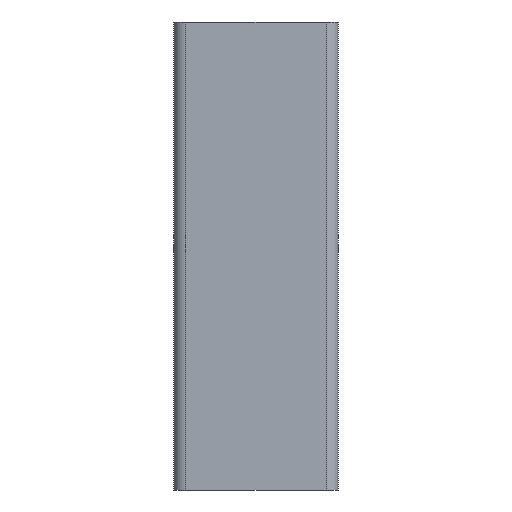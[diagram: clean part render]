
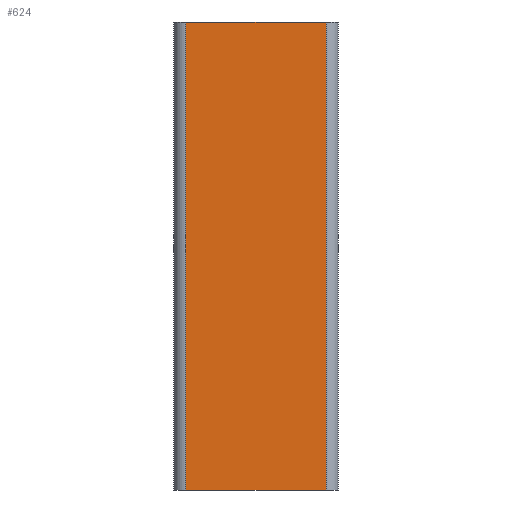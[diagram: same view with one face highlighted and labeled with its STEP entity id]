
A CAD part, front view. The second image highlights one B-rep face of the part: STEP entity #624.
In plain terms, the highlighted planar face has unit normal (0, -1, 0).
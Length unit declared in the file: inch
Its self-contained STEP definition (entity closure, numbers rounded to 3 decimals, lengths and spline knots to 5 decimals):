
#4 = AXIS2_PLACEMENT_3D ( 'NONE', #409, #438, #441 ) ;
#15 = VERTEX_POINT ( 'NONE', #32 ) ;
#22 = CARTESIAN_POINT ( 'NONE',  ( 1.34725, -1.58125, -4.5 ) ) ;
#26 = CARTESIAN_POINT ( 'NONE',  ( -1.34725, -1.58125, 4.5 ) ) ;
#32 = CARTESIAN_POINT ( 'NONE',  ( 1.34725, -1.58125, 4.5 ) ) ;
#45 = CARTESIAN_POINT ( 'NONE',  ( -1.34725, -1.58125, -4.5 ) ) ;
#47 = VERTEX_POINT ( 'NONE', #22 ) ;
#48 = VERTEX_POINT ( 'NONE', #45 ) ;
#80 = VERTEX_POINT ( 'NONE', #26 ) ;
#103 = EDGE_CURVE ( 'NONE', #80, #15, #489, .T. ) ;
#106 = EDGE_CURVE ( 'NONE', #80, #48, #494, .T. ) ;
#107 = EDGE_CURVE ( 'NONE', #15, #47, #497, .T. ) ;
#114 = EDGE_CURVE ( 'NONE', #48, #47, #506, .T. ) ;
#134 = DIRECTION ( 'NONE',  ( 1., 0., 0. ) ) ;
#142 = CARTESIAN_POINT ( 'NONE',  ( -1.34725, -1.58125, -4.5 ) ) ;
#158 = DIRECTION ( 'NONE',  ( 0., 0., -1. ) ) ;
#163 = DIRECTION ( 'NONE',  ( 0., 0., -1. ) ) ;
#164 = CARTESIAN_POINT ( 'NONE',  ( -1.34725, -1.58125, 4.5 ) ) ;
#165 = CARTESIAN_POINT ( 'NONE',  ( -1.34725, -1.58125, 4.5 ) ) ;
#173 = CARTESIAN_POINT ( 'NONE',  ( 1.34725, -1.58125, 4.5 ) ) ;
#174 = DIRECTION ( 'NONE',  ( 1., 0., 0. ) ) ;
#241 = ORIENTED_EDGE ( 'NONE', *, *, #103, .F. ) ;
#255 = ORIENTED_EDGE ( 'NONE', *, *, #114, .T. ) ;
#269 = ORIENTED_EDGE ( 'NONE', *, *, #106, .T. ) ;
#274 = ORIENTED_EDGE ( 'NONE', *, *, #107, .F. ) ;
#277 = EDGE_LOOP ( 'NONE', ( #255, #274, #241, #269 ) ) ;
#409 = CARTESIAN_POINT ( 'NONE',  ( -1.34725, -1.58125, 4.5 ) ) ;
#412 = PLANE ( 'NONE',  #4 ) ;
#438 = DIRECTION ( 'NONE',  ( 0., 1., 0. ) ) ;
#441 = DIRECTION ( 'NONE',  ( 0., 0., 1. ) ) ;
#489 = LINE ( 'NONE', #165, #493 ) ;
#492 = VECTOR ( 'NONE', #163, 39.37008 ) ;
#493 = VECTOR ( 'NONE', #174, 39.37008 ) ;
#494 = LINE ( 'NONE', #164, #492 ) ;
#497 = LINE ( 'NONE', #173, #499 ) ;
#499 = VECTOR ( 'NONE', #158, 39.37008 ) ;
#506 = LINE ( 'NONE', #142, #509 ) ;
#509 = VECTOR ( 'NONE', #134, 39.37008 ) ;
#536 = FACE_OUTER_BOUND ( 'NONE', #277, .T. ) ;
#624 = ADVANCED_FACE ( 'NONE', ( #536 ), #412, .F. ) ;
